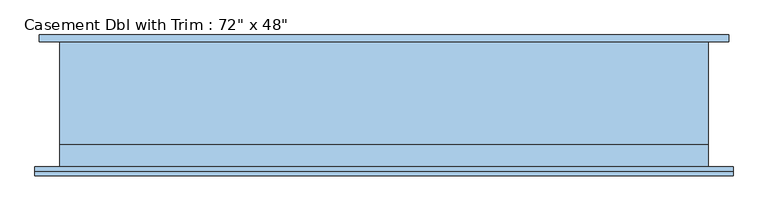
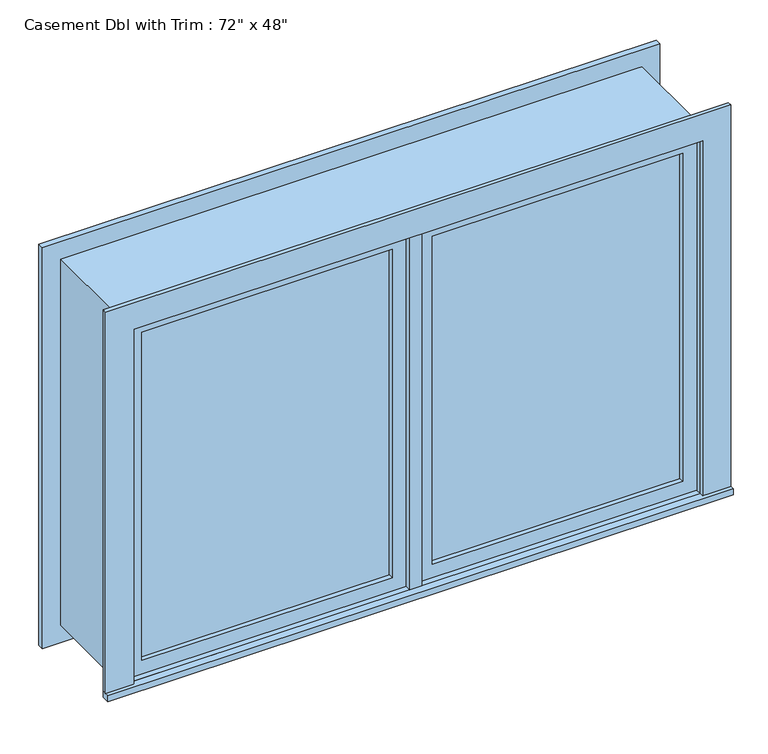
"""IFC4 building model written with IfcOpenShell, lengths in millimetres: window geometry."""

from ifc_helpers import new_model, si_unit, frame, origin, place, context, project, spatial, polyline, outline, extrude, source, transform, mapped, element, save


def window_801eb773(model_context):
    return source(origin(), model_context, "Body", "SweptSolid", [
        extrude(outline(polyline([(63.5, -160.3375), (63.5, -147.6375), (850.9, -147.6375), (850.9, -160.3375), (63.5, -160.3375)])), frame((0.0, 0.0, 1282.7), z_axis=(0.0, 0.0, 1.0), x_axis=(1.0, 0.0, 0.0)), (0.0, 0.0, 1.0), 1092.2),
        extrude(outline(polyline([(2419.35, 19.05), (1238.25, 19.05), (1238.25, 895.35), (2419.35, 895.35), (2419.35, 19.05)]), holes=[polyline([(2374.9, 63.5), (2374.9, 850.9), (1282.7, 850.9), (1282.7, 63.5), (2374.9, 63.5)])]), frame((0.0, -176.2125, 0.0), z_axis=(0.0, 1.0, 0.0), x_axis=(0.0, 0.0, 1.0)), (0.0, 0.0, 1.0), 44.45),
        extrude(outline(polyline([(19.05, -131.7625), (19.05, -195.2625), (-19.05, -195.2625), (-19.05, -131.7625), (19.05, -131.7625)])), frame((0.0, 0.0, 1238.25), z_axis=(0.0, 0.0, 1.0), x_axis=(1.0, 0.0, 0.0)), (0.0, 0.0, 1.0), 1181.1),
        extrude(outline(polyline([(-984.25, -220.6625), (-984.25, -195.2625), (984.25, -195.2625), (984.25, -220.6625), (-984.25, -220.6625)])), frame((0.0, 0.0, 1219.2), z_axis=(0.0, 0.0, 1.0), x_axis=(1.0, 0.0, 0.0)), (0.0, 0.0, 1.0), 19.05),
        extrude(outline(polyline([(2419.35, -895.35), (2419.35, 895.35), (1238.25, 895.35), (1238.25, 984.25), (2508.25, 984.25), (2508.25, -984.25), (1238.25, -984.25), (1238.25, -895.35), (2419.35, -895.35)])), frame((0.0, -207.9625, 0.0), z_axis=(0.0, 1.0, 0.0), x_axis=(0.0, 0.0, 1.0)), (0.0, 0.0, 1.0), 12.7),
        extrude(outline(polyline([(2495.55, 971.55), (2495.55, -971.55), (1162.05, -971.55), (1162.05, 971.55), (2495.55, 971.55)]), holes=[polyline([(2406.65, 882.65), (1250.95, 882.65), (1250.95, -882.65), (2406.65, -882.65), (2406.65, 882.65)])]), frame((0.0, 157.1625, 0.0), z_axis=(0.0, 1.0, 0.0), x_axis=(0.0, 0.0, 1.0)), (0.0, 0.0, 1.0), 19.05),
        extrude(outline(polyline([(-63.5, -147.6375), (-63.5, -160.3375), (-850.9, -160.3375), (-850.9, -147.6375), (-63.5, -147.6375)])), frame((0.0, 0.0, 1282.7), z_axis=(0.0, 0.0, 1.0), x_axis=(1.0, 0.0, 0.0)), (0.0, 0.0, 1.0), 1092.2),
        extrude(outline(polyline([(2419.35, -895.35), (1238.25, -895.35), (1238.25, -19.05), (2419.35, -19.05), (2419.35, -895.35)]), holes=[polyline([(2374.9, -850.9), (2374.9, -63.5), (1282.7, -63.5), (1282.7, -850.9), (2374.9, -850.9)])]), frame((0.0, -176.2125, 0.0), z_axis=(0.0, 1.0, 0.0), x_axis=(0.0, 0.0, 1.0)), (0.0, 0.0, 1.0), 44.45),
        extrude(outline(polyline([(2438.4, -914.4), (1219.2, -914.4), (1219.2, 914.4), (2438.4, 914.4), (2438.4, -914.4)]), holes=[polyline([(2406.65, -882.65), (2406.65, 882.65), (1250.95, 882.65), (1250.95, -882.65), (2406.65, -882.65)])]), frame((0.0, -131.7625, 0.0), z_axis=(0.0, 1.0, 0.0), x_axis=(0.0, 0.0, 1.0)), (0.0, 0.0, 1.0), 288.925),
        extrude(outline(polyline([(2438.4, 914.4), (2438.4, -914.4), (1219.2, -914.4), (1219.2, 914.4), (2438.4, 914.4)]), holes=[polyline([(2419.35, 895.35), (1238.25, 895.35), (1238.25, -895.35), (2419.35, -895.35), (2419.35, 895.35)])]), frame((0.0, -195.2625, 0.0), z_axis=(0.0, 1.0, 0.0), x_axis=(0.0, 0.0, 1.0)), (0.0, 0.0, 1.0), 63.5),
    ])


if __name__ == "__main__":
    model = new_model("IFC4")
    model_context = context("Model", 3, world=origin())
    ifc_project = project(units=[si_unit("LENGTHUNIT", "METRE", prefix="MILLI")], contexts=[model_context])
    site = spatial("IfcSite", under=ifc_project)
    building = spatial("IfcBuilding", under=site)
    placement = place(None, origin())
    window_shape = window_801eb773(model_context)
    element("IfcWindow", 1, ObjectType="Casement Dbl with Trim : 72\" x 48\"", at=placement, inside=building, context=model_context, shape_type="MappedRepresentation", body=[
        mapped(window_shape, transform((0.0, 0.0, 0.0), x_axis=(1.0, 0.0, 0.0), y_axis=(0.0, 1.0, 0.0), z_axis=(0.0, 0.0, 1.0))),
    ])
    save(model, "model.ifc")
